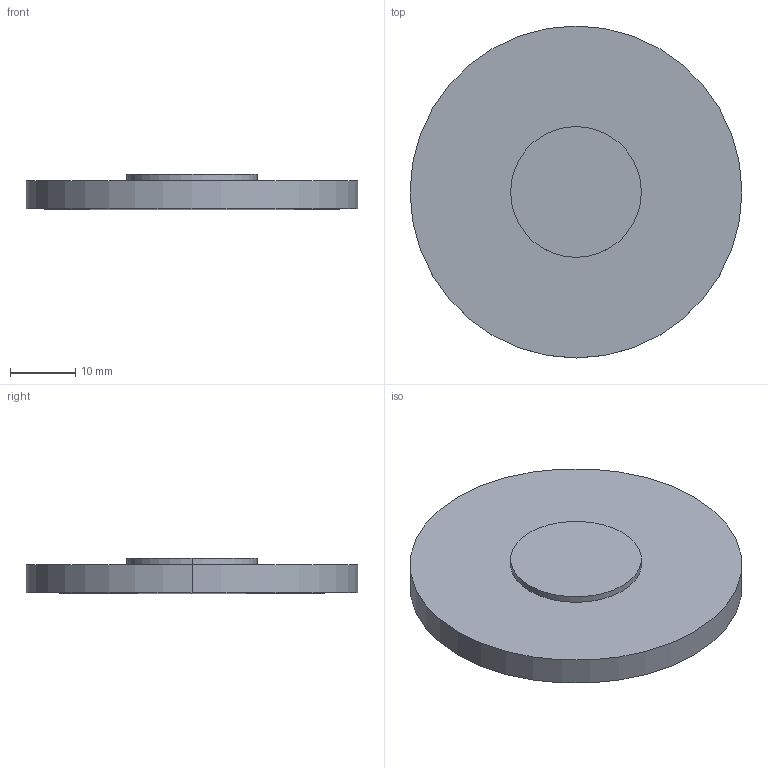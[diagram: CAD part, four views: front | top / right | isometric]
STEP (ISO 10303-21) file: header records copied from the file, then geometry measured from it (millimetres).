
FILE_DESCRIPTION(('STEP AP214'),'1');
FILE_NAME('LLG-51610.STEP','2020-03-09T17:41:43',(' '),(' '),'Spatial InterOp 3D',' ',' ');
FILE_SCHEMA(('AUTOMOTIVE_DESIGN { 1 0 10303 214 1 1 1 1 }'));
Length unit declared in the file: millimetre
Products named in the file (1): 1
Bounding box: 50.8 x 50.8 x 5.5 mm (x, y, z)
Volume: 9253.1 mm3; surface area: 5434.5 mm2
Topology: 2 solids, 2 shells, 9 faces, 16 edges, 9 vertices
Faces by surface type: cylinder 4, plane 3, sphere 2
Entity records: 229 total; most frequent: DIRECTION 46, CARTESIAN_POINT 34, ORIENTED_EDGE 28, AXIS2_PLACEMENT_3D 21, EDGE_CURVE 14, CIRCLE 10, ADVANCED_FACE 9, FACE_OUTER_BOUND 9
